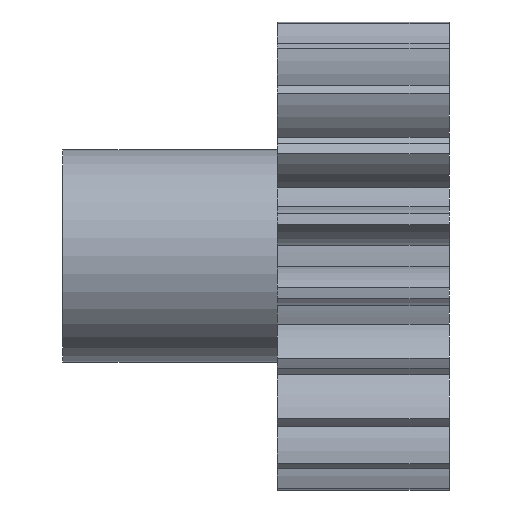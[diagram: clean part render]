
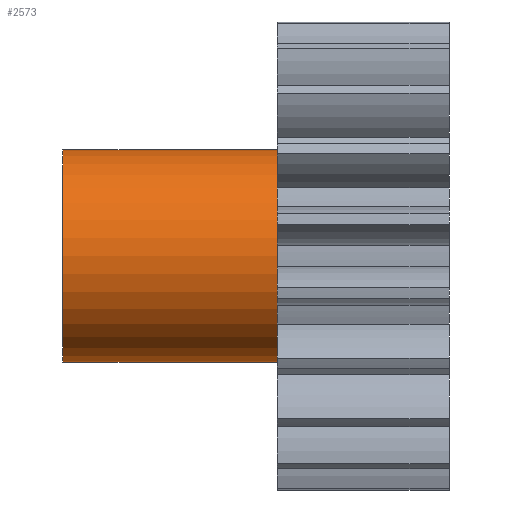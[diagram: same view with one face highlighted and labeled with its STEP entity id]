
A CAD part, front view. The second image highlights one B-rep face of the part: STEP entity #2573.
In plain terms, the highlighted cylindrical face has radius 7.425 mm (diameter 14.85 mm), a partial arc.
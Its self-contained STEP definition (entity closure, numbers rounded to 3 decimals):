
#157 = EDGE_CURVE ( 'NONE', #2216, #2555, #1500, .T. ) ;
#287 = VERTEX_POINT ( 'NONE', #785 ) ;
#392 = LINE ( 'NONE', #3198, #3111 ) ;
#396 = EDGE_CURVE ( 'NONE', #2555, #287, #3048, .T. ) ;
#571 = DIRECTION ( 'NONE',  ( -1., 0., 0. ) ) ;
#724 = ORIENTED_EDGE ( 'NONE', *, *, #1072, .F. ) ;
#785 = CARTESIAN_POINT ( 'NONE',  ( 4., 0., 7.425 ) ) ;
#986 = ORIENTED_EDGE ( 'NONE', *, *, #396, .T. ) ;
#1010 = AXIS2_PLACEMENT_3D ( 'NONE', #1289, #1513, #2290 ) ;
#1072 = EDGE_CURVE ( 'NONE', #2216, #3123, #3106, .T. ) ;
#1186 = AXIS2_PLACEMENT_3D ( 'NONE', #1802, #2524, #1223 ) ;
#1215 = DIRECTION ( 'NONE',  ( 1., 0., 0. ) ) ;
#1223 = DIRECTION ( 'NONE',  ( 0., 0., -1. ) ) ;
#1230 = CARTESIAN_POINT ( 'NONE',  ( -11., 0., -7.425 ) ) ;
#1274 = CARTESIAN_POINT ( 'NONE',  ( 4., 0., -7.425 ) ) ;
#1289 = CARTESIAN_POINT ( 'NONE',  ( -11., 0., 0. ) ) ;
#1500 = LINE ( 'NONE', #1230, #3147 ) ;
#1513 = DIRECTION ( 'NONE',  ( -1., 0., 0. ) ) ;
#1542 = AXIS2_PLACEMENT_3D ( 'NONE', #3142, #571, #2114 ) ;
#1666 = EDGE_CURVE ( 'NONE', #3123, #287, #392, .T. ) ;
#1802 = CARTESIAN_POINT ( 'NONE',  ( -11., 0., 0. ) ) ;
#1967 = ORIENTED_EDGE ( 'NONE', *, *, #1666, .F. ) ;
#2114 = DIRECTION ( 'NONE',  ( 0., 0., -1. ) ) ;
#2126 = CARTESIAN_POINT ( 'NONE',  ( -11., 0., 7.425 ) ) ;
#2216 = VERTEX_POINT ( 'NONE', #2331 ) ;
#2290 = DIRECTION ( 'NONE',  ( 0., 0., 1. ) ) ;
#2331 = CARTESIAN_POINT ( 'NONE',  ( -11., 0., -7.425 ) ) ;
#2431 = ORIENTED_EDGE ( 'NONE', *, *, #157, .T. ) ;
#2524 = DIRECTION ( 'NONE',  ( 1., 0., 0. ) ) ;
#2555 = VERTEX_POINT ( 'NONE', #1274 ) ;
#2573 = ADVANCED_FACE ( 'NONE', ( #3273 ), #3307, .T. ) ;
#2720 = EDGE_LOOP ( 'NONE', ( #1967, #724, #2431, #986 ) ) ;
#3048 = CIRCLE ( 'NONE', #1542, 7.425 ) ;
#3106 = CIRCLE ( 'NONE', #1010, 7.425 ) ;
#3111 = VECTOR ( 'NONE', #3237, 1000. ) ;
#3123 = VERTEX_POINT ( 'NONE', #2126 ) ;
#3142 = CARTESIAN_POINT ( 'NONE',  ( 4., 0., 0. ) ) ;
#3147 = VECTOR ( 'NONE', #1215, 1000. ) ;
#3198 = CARTESIAN_POINT ( 'NONE',  ( -11., 0., 7.425 ) ) ;
#3237 = DIRECTION ( 'NONE',  ( 1., 0., 0. ) ) ;
#3273 = FACE_OUTER_BOUND ( 'NONE', #2720, .T. ) ;
#3307 = CYLINDRICAL_SURFACE ( 'NONE', #1186, 7.425 ) ;
